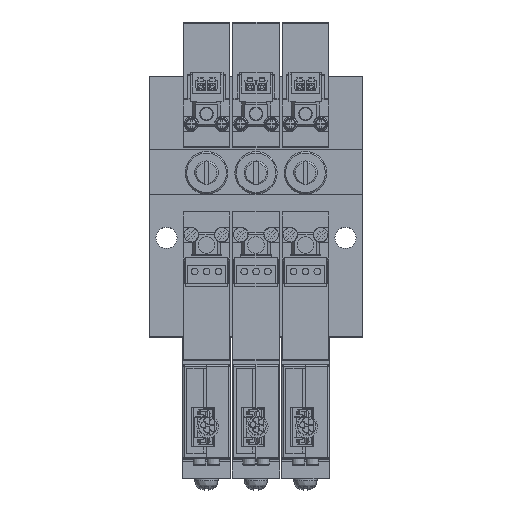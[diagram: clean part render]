
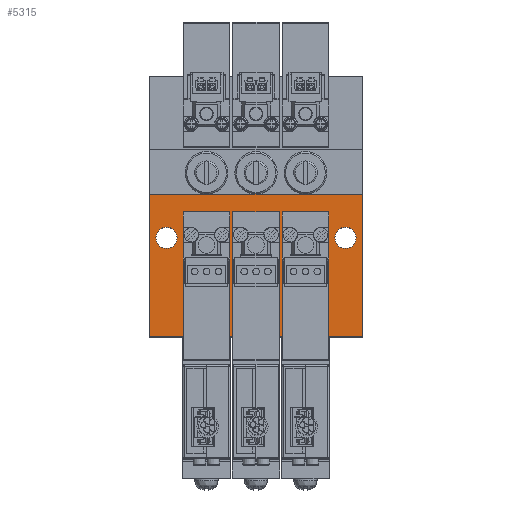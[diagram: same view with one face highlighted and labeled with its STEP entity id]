
A CAD part, top view. The second image highlights one B-rep face of the part: STEP entity #5315.
In plain terms, the highlighted planar face has unit normal (0, 0, 1).
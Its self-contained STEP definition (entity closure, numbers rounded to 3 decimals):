
#5315=ADVANCED_FACE('',(#9140,#9141,#9142),#9143,.F.);
#9140=FACE_BOUND('',#16961,.T.);
#9141=FACE_BOUND('',#16962,.T.);
#9142=FACE_OUTER_BOUND('',#16963,.T.);
#9143=PLANE('',#16964);
#16961=EDGE_LOOP('',(#25871));
#16962=EDGE_LOOP('',(#25872));
#16963=EDGE_LOOP('',(#25873,#25874,#25875,#25876));
#16964=AXIS2_PLACEMENT_3D('',#25877,#25878,#25879);
#25871=ORIENTED_EDGE('',*,*,#55980,.F.);
#25872=ORIENTED_EDGE('',*,*,#55981,.F.);
#25873=ORIENTED_EDGE('',*,*,#55982,.F.);
#25874=ORIENTED_EDGE('',*,*,#55983,.F.);
#25875=ORIENTED_EDGE('',*,*,#55984,.T.);
#25876=ORIENTED_EDGE('',*,*,#55978,.T.);
#25877=CARTESIAN_POINT('',(-45.0,30.3,14.8));
#25878=DIRECTION('',(0.0,0.0,-1.0));
#25879=DIRECTION('',(1.0,0.0,0.0));
#55978=EDGE_CURVE('',#65690,#65688,#65691,.T.);
#55980=EDGE_CURVE('',#65693,#65693,#65694,.T.);
#55981=EDGE_CURVE('',#65695,#65695,#65696,.T.);
#55982=EDGE_CURVE('',#65697,#65688,#65698,.T.);
#55983=EDGE_CURVE('',#65699,#65697,#65700,.T.);
#55984=EDGE_CURVE('',#65699,#65690,#65701,.T.);
#65688=VERTEX_POINT('',#81987);
#65690=VERTEX_POINT('',#81990);
#65691=LINE('',#81991,#81992);
#65693=VERTEX_POINT('',#81995);
#65694=CIRCLE('',#81996,2.25);
#65695=VERTEX_POINT('',#81997);
#65696=CIRCLE('',#81998,2.25);
#65697=VERTEX_POINT('',#81999);
#65698=LINE('',#82000,#82001);
#65699=VERTEX_POINT('',#82002);
#65700=LINE('',#82003,#82004);
#65701=LINE('',#82005,#82006);
#81987=CARTESIAN_POINT('',(0.0,0.,14.8));
#81990=CARTESIAN_POINT('',(-45.0,0.,14.8));
#81991=CARTESIAN_POINT('',(-45.0,0.,14.8));
#81992=VECTOR('',#107831,1.0);
#81995=CARTESIAN_POINT('',(-39.25,21.0,14.8));
#81996=AXIS2_PLACEMENT_3D('',#107833,#107834,#107835);
#81997=CARTESIAN_POINT('',(-1.25,21.0,14.8));
#81998=AXIS2_PLACEMENT_3D('',#107836,#107837,#107838);
#81999=CARTESIAN_POINT('',(0.0,30.3,14.8));
#82000=CARTESIAN_POINT('',(0.0,30.3,14.8));
#82001=VECTOR('',#107839,1.0);
#82002=CARTESIAN_POINT('',(-45.0,30.3,14.8));
#82003=CARTESIAN_POINT('',(-45.0,30.3,14.8));
#82004=VECTOR('',#107840,1.0);
#82005=CARTESIAN_POINT('',(-45.0,30.3,14.8));
#82006=VECTOR('',#107841,1.0);
#107831=DIRECTION('',(1.0,0.0,0.0));
#107833=CARTESIAN_POINT('',(-41.5,21.0,14.8));
#107834=DIRECTION('',(0.0,0.0,1.0));
#107835=DIRECTION('',(1.0,0.0,0.0));
#107836=CARTESIAN_POINT('',(-3.5,21.0,14.8));
#107837=DIRECTION('',(0.0,0.0,1.0));
#107838=DIRECTION('',(1.0,0.0,0.0));
#107839=DIRECTION('',(0.0,-1.0,0.0));
#107840=DIRECTION('',(1.0,0.0,0.0));
#107841=DIRECTION('',(0.0,-1.0,0.0));
